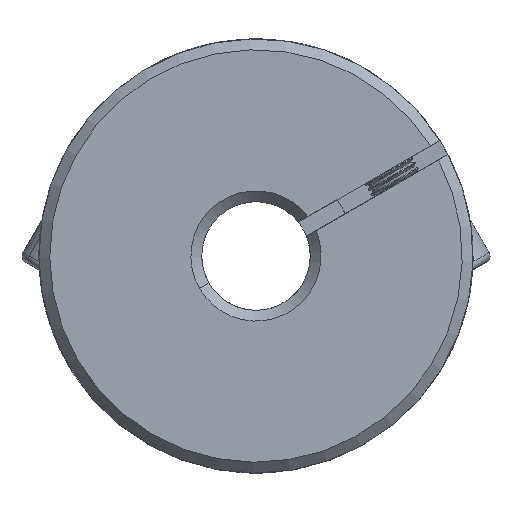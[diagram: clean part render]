
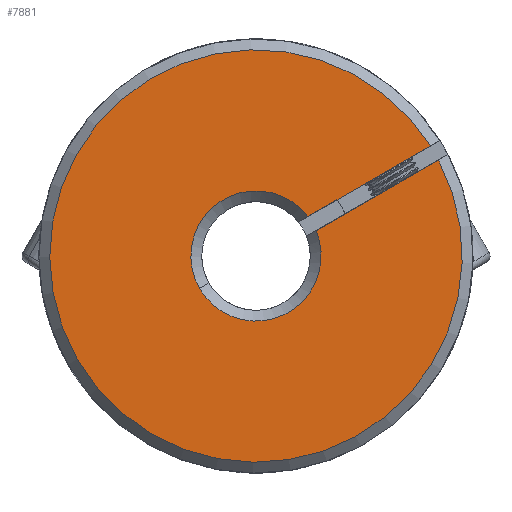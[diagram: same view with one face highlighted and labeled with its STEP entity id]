
A CAD part, front view. The second image highlights one B-rep face of the part: STEP entity #7881.
In plain terms, the highlighted planar face has unit normal (0, -1, 0).
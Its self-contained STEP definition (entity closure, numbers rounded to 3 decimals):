
#647 = VECTOR ( 'NONE', #11745, 1000. ) ;
#755 = ORIENTED_EDGE ( 'NONE', *, *, #1637, .T. ) ;
#1330 = ORIENTED_EDGE ( 'NONE', *, *, #4093, .T. ) ;
#1396 = EDGE_LOOP ( 'NONE', ( #12021, #755, #7370, #9512, #1330 ) ) ;
#1529 = CARTESIAN_POINT ( 'NONE',  ( 15.367, -31.239, 48.848 ) ) ;
#1580 = CARTESIAN_POINT ( 'NONE',  ( 3.332, -31.239, 43.628 ) ) ;
#1637 = EDGE_CURVE ( 'NONE', #11232, #7373, #11315, .T. ) ;
#2227 = CARTESIAN_POINT ( 'NONE',  ( -1.447, -31.239, 40. ) ) ;
#2368 = VERTEX_POINT ( 'NONE', #1529 ) ;
#3023 = LINE ( 'NONE', #11691, #647 ) ;
#3190 = AXIS2_PLACEMENT_3D ( 'NONE', #6767, #8949, #9905 ) ;
#3277 = DIRECTION ( 'NONE',  ( 0., -1., 0. ) ) ;
#4093 = EDGE_CURVE ( 'NONE', #8515, #2368, #8400, .T. ) ;
#4105 = PLANE ( 'NONE',  #11625 ) ;
#6767 = CARTESIAN_POINT ( 'NONE',  ( -1.447, -31.239, 40. ) ) ;
#6958 = VECTOR ( 'NONE', #12027, 1000. ) ;
#7370 = ORIENTED_EDGE ( 'NONE', *, *, #13118, .T. ) ;
#7373 = VERTEX_POINT ( 'NONE', #10839 ) ;
#7627 = LINE ( 'NONE', #10033, #6958 ) ;
#7881 = ADVANCED_FACE ( 'NONE', ( #11188 ), #4105, .F. ) ;
#8068 = AXIS2_PLACEMENT_3D ( 'NONE', #13932, #3277, #10790 ) ;
#8137 = AXIS2_PLACEMENT_3D ( 'NONE', #2227, #8842, #10995 ) ;
#8262 = DIRECTION ( 'NONE',  ( 0., 1., 0. ) ) ;
#8400 = CIRCLE ( 'NONE', #8068, 19. ) ;
#8515 = VERTEX_POINT ( 'NONE', #11799 ) ;
#8570 = EDGE_CURVE ( 'NONE', #8515, #13216, #7627, .T. ) ;
#8842 = DIRECTION ( 'NONE',  ( 0., 1., 0. ) ) ;
#8949 = DIRECTION ( 'NONE',  ( 0., 1., 0. ) ) ;
#9512 = ORIENTED_EDGE ( 'NONE', *, *, #8570, .F. ) ;
#9771 = DIRECTION ( 'NONE',  ( 0.5, 0., -0.866 ) ) ;
#9887 = CIRCLE ( 'NONE', #8137, 6. ) ;
#9905 = DIRECTION ( 'NONE',  ( 0.5, 0., -0.866 ) ) ;
#10033 = CARTESIAN_POINT ( 'NONE',  ( 2.458, -31.239, 43.122 ) ) ;
#10759 = EDGE_CURVE ( 'NONE', #11232, #2368, #3023, .T. ) ;
#10790 = DIRECTION ( 'NONE',  ( 0.5, 0., -0.866 ) ) ;
#10839 = CARTESIAN_POINT ( 'NONE',  ( -6.642, -31.239, 36.998 ) ) ;
#10995 = DIRECTION ( 'NONE',  ( 0.5, 0., -0.866 ) ) ;
#11188 = FACE_OUTER_BOUND ( 'NONE', #1396, .T. ) ;
#11232 = VERTEX_POINT ( 'NONE', #11588 ) ;
#11315 = CIRCLE ( 'NONE', #3190, 6. ) ;
#11588 = CARTESIAN_POINT ( 'NONE',  ( 4.083, -31.239, 42.329 ) ) ;
#11625 = AXIS2_PLACEMENT_3D ( 'NONE', #12749, #8262, #9771 ) ;
#11691 = CARTESIAN_POINT ( 'NONE',  ( 3.209, -31.239, 41.824 ) ) ;
#11745 = DIRECTION ( 'NONE',  ( 0.866, 0., 0.5 ) ) ;
#11799 = CARTESIAN_POINT ( 'NONE',  ( 14.616, -31.239, 50.147 ) ) ;
#12021 = ORIENTED_EDGE ( 'NONE', *, *, #10759, .F. ) ;
#12027 = DIRECTION ( 'NONE',  ( -0.866, 0., -0.5 ) ) ;
#12749 = CARTESIAN_POINT ( 'NONE',  ( 52.98, -31.239, 45.743 ) ) ;
#13118 = EDGE_CURVE ( 'NONE', #7373, #13216, #9887, .T. ) ;
#13216 = VERTEX_POINT ( 'NONE', #1580 ) ;
#13932 = CARTESIAN_POINT ( 'NONE',  ( -1.447, -31.239, 40. ) ) ;
